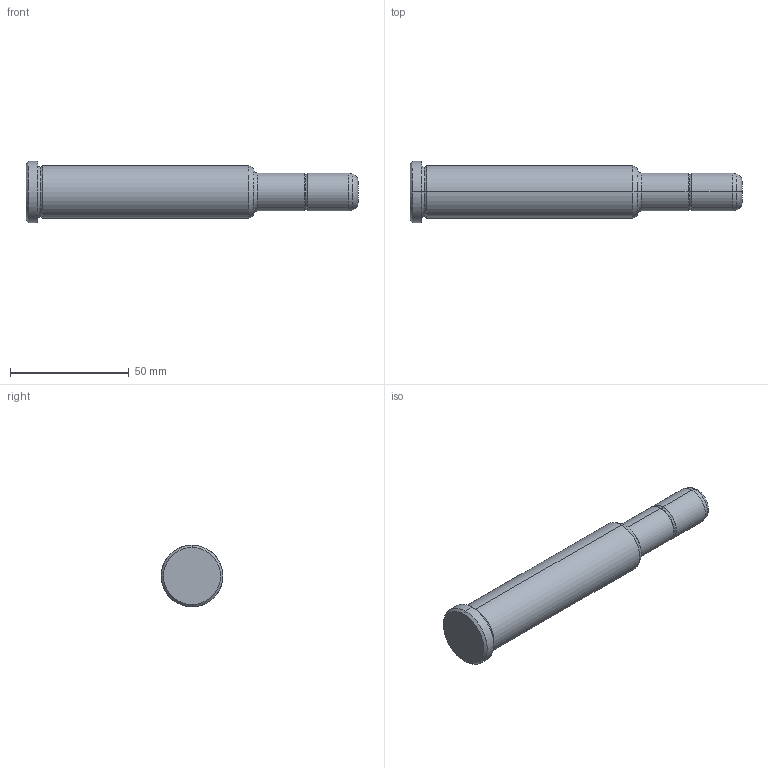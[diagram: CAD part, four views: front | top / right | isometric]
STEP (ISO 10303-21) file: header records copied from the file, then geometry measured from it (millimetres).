
FILE_DESCRIPTION(('CATIA V5 STEP Exchange'),'2;1');
FILE_NAME('C:\Users\Utente\Desktop\IO LAVORO\3D X SITO CF\X SITO\PLASTICA\351\351-16X96X140.stp','2021-08-18T12:44:38+00:00',('none'),('none'),'CATIA Version 5 Release 20 GA (IN-10)','CATIA V5 STEP AP203','none');
FILE_SCHEMA(('CONFIG_CONTROL_DESIGN'));
Length unit declared in the file: millimetre
Products named in the file (1): 351-16X96X140
Bounding box: 140 x 26 x 26 mm (x, y, z)
Volume: 45781.9 mm3; surface area: 9774.6 mm2
Topology: 1 solids, 1 shells, 30 faces, 86 edges, 60 vertices
Faces by surface type: torus 12, cylinder 8, cone 6, plane 4
Entity records: 1112 total; most frequent: CARTESIAN_POINT 289, ORIENTED_EDGE 172, DIRECTION 138, AXIS2_PLACEMENT_3D 95, EDGE_CURVE 86, CIRCLE 64, VERTEX_POINT 60, EDGE_LOOP 32
